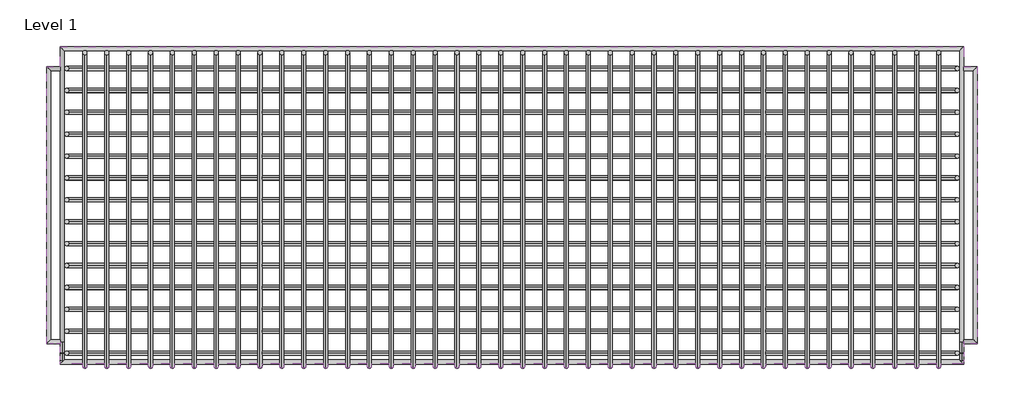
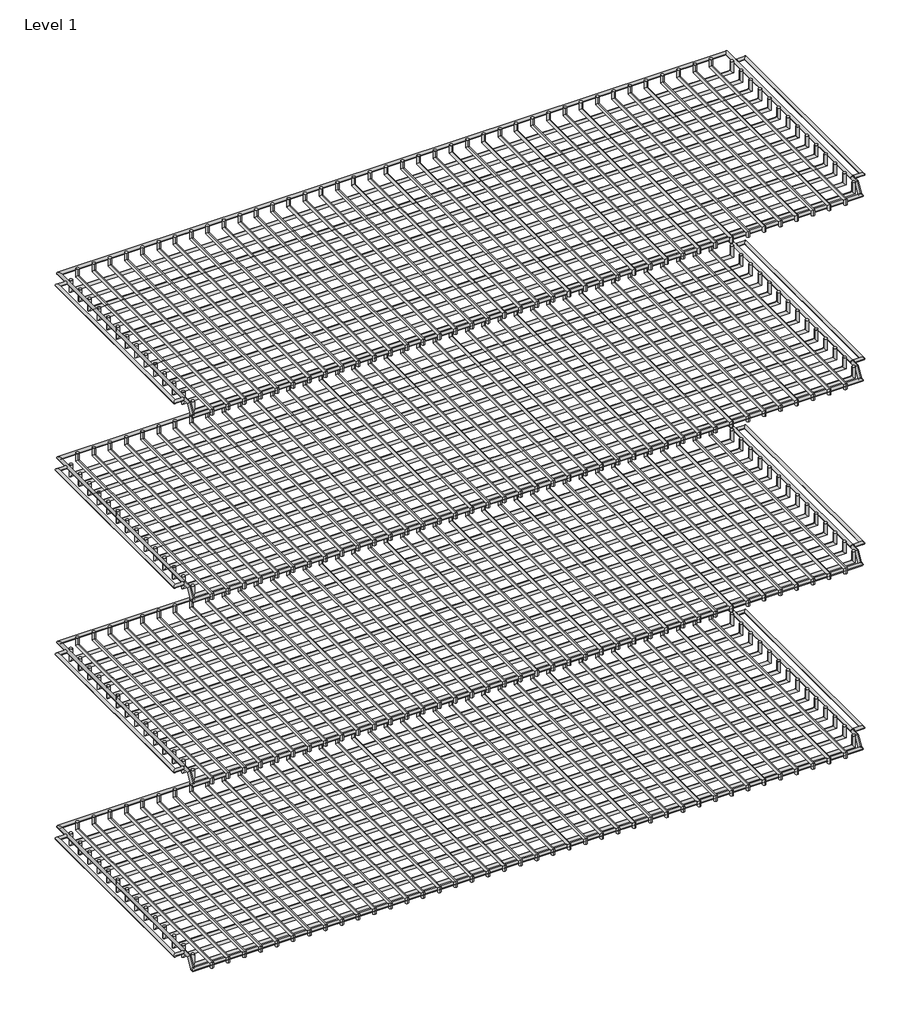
# One storey, incomplete: 4 furniture elements.
"""IFC4 building model written with IfcOpenShell, lengths in millimetres."""

from ifc_helpers import new_model, si_unit, origin, place, context, project, spatial, transform, mapped, element, save
from components import sr_22_dbl_wide_wire_shelf_071ba13a, sr_22_dbl_wide_wire_shelf_bf86c19f, sr_22_dbl_wide_wire_shelf_4a8b3b1c, sr_22_dbl_wide_wire_shelf_ef2946c3, sr_22_dbl_wide_wire_shelf_2b35090b, sr_22_dbl_wide_wire_shelf_477b4204, sr_22_dbl_wide_wire_shelf_ce08453b, sr_22_dbl_wide_wire_shelf_813cd4cb, sr_22_dbl_wide_wire_shelf_9923fb06, sr_22_dbl_wide_wire_shelf_e24182ef, sr_22_dbl_wide_wire_shelf_7f391bb4, sr_22_dbl_wide_wire_shelf_d6008d9c, sr_22_dbl_wide_wire_shelf_5bae1492, sr_22_dbl_wide_wire_shelf_6467912a, sr_22_dbl_wide_wire_shelf_81aa6d03, sr_22_dbl_wide_wire_shelf_b94fb90b

model = new_model("IFC4")

# Units and contexts
model_context = context("Model", 3, world=origin())
ifc_project = project(units=[si_unit("LENGTHUNIT", "METRE", prefix="MILLI")], contexts=[model_context])

# Site, building, storey
site = spatial("IfcSite", under=ifc_project)
building = spatial("IfcBuilding", under=site)
storey = spatial("IfcBuildingStorey", under=building, Name="Level 1", Elevation=0.0)

# Furniture
placement = place(None, origin())
sr_22_dbl_wide_wire_shelf_shape = sr_22_dbl_wide_wire_shelf_071ba13a(model_context)
sr_22_dbl_wide_wire_shelf_2_shape = sr_22_dbl_wide_wire_shelf_bf86c19f(model_context)
sr_22_dbl_wide_wire_shelf_3_shape = sr_22_dbl_wide_wire_shelf_4a8b3b1c(model_context)
sr_22_dbl_wide_wire_shelf_4_shape = sr_22_dbl_wide_wire_shelf_ef2946c3(model_context)
element("IfcFurniture", 1, ObjectType="HermanMiller_Carts_CT521_CartShelf : Sr 22 Dbl-Wide Wire Shelf", at=placement, inside=storey, context=model_context, shape_type="MappedRepresentation", body=[
    mapped(sr_22_dbl_wide_wire_shelf_shape, transform((426.0312958, -235.7162105, -1034.9579836), x_axis=(1.0, 0.0, 0.0), y_axis=(0.0, 1.0, 0.0), z_axis=(0.0, 0.0, 1.0))),
    mapped(sr_22_dbl_wide_wire_shelf_2_shape, transform((426.0312958, -235.7162105, -1034.9579836), x_axis=(1.0, 0.0, 0.0), y_axis=(0.0, 1.0, 0.0), z_axis=(0.0, 0.0, 1.0))),
    mapped(sr_22_dbl_wide_wire_shelf_3_shape, transform((426.0312958, -235.7162105, -1034.9579836), x_axis=(1.0, 0.0, 0.0), y_axis=(0.0, 1.0, 0.0), z_axis=(0.0, 0.0, 1.0))),
    mapped(sr_22_dbl_wide_wire_shelf_4_shape, transform((426.0312958, -235.7162105, -1034.9579836), x_axis=(1.0, 0.0, 0.0), y_axis=(0.0, 1.0, 0.0), z_axis=(0.0, 0.0, 1.0))),
])
sr_22_dbl_wide_wire_shelf_5_shape = sr_22_dbl_wide_wire_shelf_2b35090b(model_context)
sr_22_dbl_wide_wire_shelf_6_shape = sr_22_dbl_wide_wire_shelf_477b4204(model_context)
sr_22_dbl_wide_wire_shelf_7_shape = sr_22_dbl_wide_wire_shelf_ce08453b(model_context)
sr_22_dbl_wide_wire_shelf_8_shape = sr_22_dbl_wide_wire_shelf_813cd4cb(model_context)
element("IfcFurniture", 2, ObjectType="HermanMiller_Carts_CT521_CartShelf : Sr 22 Dbl-Wide Wire Shelf", at=placement, inside=storey, context=model_context, shape_type="MappedRepresentation", body=[
    mapped(sr_22_dbl_wide_wire_shelf_5_shape, transform((426.0312958, -235.7162105, -1034.9579836), x_axis=(1.0, 0.0, 0.0), y_axis=(0.0, 1.0, 0.0), z_axis=(0.0, 0.0, 1.0))),
    mapped(sr_22_dbl_wide_wire_shelf_6_shape, transform((426.0312958, -235.7162105, -1034.9579836), x_axis=(1.0, 0.0, 0.0), y_axis=(0.0, 1.0, 0.0), z_axis=(0.0, 0.0, 1.0))),
    mapped(sr_22_dbl_wide_wire_shelf_7_shape, transform((426.0312958, -235.7162105, -1034.9579836), x_axis=(1.0, 0.0, 0.0), y_axis=(0.0, 1.0, 0.0), z_axis=(0.0, 0.0, 1.0))),
    mapped(sr_22_dbl_wide_wire_shelf_8_shape, transform((426.0312958, -235.7162105, -1034.9579836), x_axis=(1.0, 0.0, 0.0), y_axis=(0.0, 1.0, 0.0), z_axis=(0.0, 0.0, 1.0))),
])
sr_22_dbl_wide_wire_shelf_9_shape = sr_22_dbl_wide_wire_shelf_9923fb06(model_context)
sr_22_dbl_wide_wire_shelf_10_shape = sr_22_dbl_wide_wire_shelf_e24182ef(model_context)
sr_22_dbl_wide_wire_shelf_11_shape = sr_22_dbl_wide_wire_shelf_7f391bb4(model_context)
sr_22_dbl_wide_wire_shelf_12_shape = sr_22_dbl_wide_wire_shelf_d6008d9c(model_context)
element("IfcFurniture", 3, ObjectType="HermanMiller_Carts_CT521_CartShelf : Sr 22 Dbl-Wide Wire Shelf", at=placement, inside=storey, context=model_context, shape_type="MappedRepresentation", body=[
    mapped(sr_22_dbl_wide_wire_shelf_9_shape, transform((426.0312958, -235.7162105, -1034.9579836), x_axis=(1.0, 0.0, 0.0), y_axis=(0.0, 1.0, 0.0), z_axis=(0.0, 0.0, 1.0))),
    mapped(sr_22_dbl_wide_wire_shelf_10_shape, transform((426.0312958, -235.7162105, -1034.9579836), x_axis=(1.0, 0.0, 0.0), y_axis=(0.0, 1.0, 0.0), z_axis=(0.0, 0.0, 1.0))),
    mapped(sr_22_dbl_wide_wire_shelf_11_shape, transform((426.0312958, -235.7162105, -1034.9579836), x_axis=(1.0, 0.0, 0.0), y_axis=(0.0, 1.0, 0.0), z_axis=(0.0, 0.0, 1.0))),
    mapped(sr_22_dbl_wide_wire_shelf_12_shape, transform((426.0312958, -235.7162105, -1034.9579836), x_axis=(1.0, 0.0, 0.0), y_axis=(0.0, 1.0, 0.0), z_axis=(0.0, 0.0, 1.0))),
])
sr_22_dbl_wide_wire_shelf_13_shape = sr_22_dbl_wide_wire_shelf_5bae1492(model_context)
sr_22_dbl_wide_wire_shelf_14_shape = sr_22_dbl_wide_wire_shelf_6467912a(model_context)
sr_22_dbl_wide_wire_shelf_15_shape = sr_22_dbl_wide_wire_shelf_81aa6d03(model_context)
sr_22_dbl_wide_wire_shelf_16_shape = sr_22_dbl_wide_wire_shelf_b94fb90b(model_context)
element("IfcFurniture", 4, ObjectType="HermanMiller_Carts_CT521_CartShelf : Sr 22 Dbl-Wide Wire Shelf", at=placement, inside=storey, context=model_context, shape_type="MappedRepresentation", body=[
    mapped(sr_22_dbl_wide_wire_shelf_13_shape, transform((426.0312958, -235.7162105, -1034.9579836), x_axis=(1.0, 0.0, 0.0), y_axis=(0.0, 1.0, 0.0), z_axis=(0.0, 0.0, 1.0))),
    mapped(sr_22_dbl_wide_wire_shelf_14_shape, transform((426.0312958, -235.7162105, -1034.9579836), x_axis=(1.0, 0.0, 0.0), y_axis=(0.0, 1.0, 0.0), z_axis=(0.0, 0.0, 1.0))),
    mapped(sr_22_dbl_wide_wire_shelf_15_shape, transform((426.0312958, -235.7162105, -1034.9579836), x_axis=(1.0, 0.0, 0.0), y_axis=(0.0, 1.0, 0.0), z_axis=(0.0, 0.0, 1.0))),
    mapped(sr_22_dbl_wide_wire_shelf_16_shape, transform((426.0312958, -235.7162105, -1034.9579836), x_axis=(1.0, 0.0, 0.0), y_axis=(0.0, 1.0, 0.0), z_axis=(0.0, 0.0, 1.0))),
])

save(model, "model.ifc")
